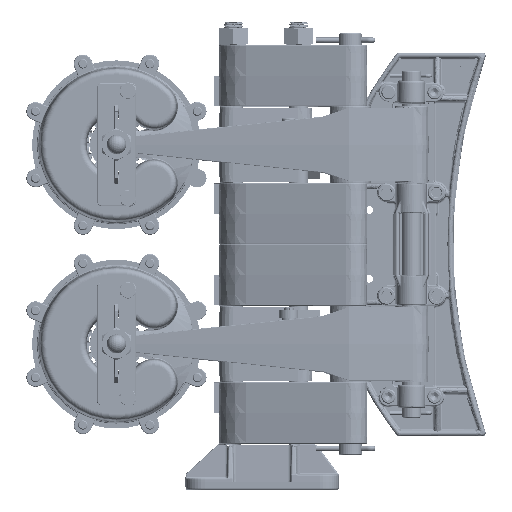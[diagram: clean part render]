
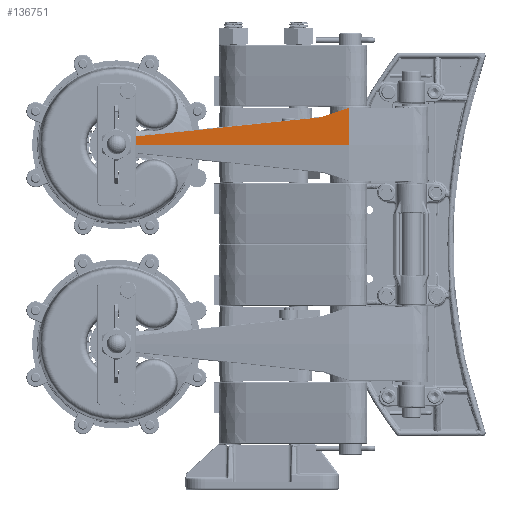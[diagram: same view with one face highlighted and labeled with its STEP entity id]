
A CAD part, top view. The second image highlights one B-rep face of the part: STEP entity #136751.
In plain terms, the highlighted planar face has unit normal (-0.091, 0.018, 0.996).
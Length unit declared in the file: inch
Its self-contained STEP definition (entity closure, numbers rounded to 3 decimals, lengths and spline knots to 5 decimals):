
#981 = VECTOR ( 'NONE', #247696, 39.37008 ) ;
#3040 = EDGE_CURVE ( 'NONE', #159922, #183151, #129863, .T. ) ;
#7959 = DIRECTION ( 'NONE',  ( 0.996, 0., 0.091 ) ) ;
#44146 = DIRECTION ( 'NONE',  ( -0.091, 0.017, 0.996 ) ) ;
#44271 = CARTESIAN_POINT ( 'NONE',  ( -0.30337, 4.13664, 3.76346 ) ) ;
#68616 = AXIS2_PLACEMENT_3D ( 'NONE', #218626, #44146, #247762 ) ;
#75100 = LINE ( 'NONE', #203198, #143348 ) ;
#93016 = VERTEX_POINT ( 'NONE', #231192 ) ;
#107151 = EDGE_CURVE ( 'NONE', #343277, #219082, #214190, .T. ) ;
#109599 = EDGE_CURVE ( 'NONE', #93016, #219082, #114776, .T. ) ;
#114776 = LINE ( 'NONE', #214898, #183190 ) ;
#121940 = CARTESIAN_POINT ( 'NONE',  ( -6.66035, 3.48035, 3.1924 ) ) ;
#123183 = CARTESIAN_POINT ( 'NONE',  ( -6.66035, 3.48036, 3.1924 ) ) ;
#123773 = CARTESIAN_POINT ( 'NONE',  ( 0.58267, 3.25, 3.8602 ) ) ;
#127630 = CARTESIAN_POINT ( 'NONE',  ( -6.66035, 3.48036, 3.1924 ) ) ;
#129863 =( BOUNDED_CURVE ( )  B_SPLINE_CURVE ( 3, ( #152524, #123183, #121940, #356251 ),
 .UNSPECIFIED., .F., .F. ) 
 B_SPLINE_CURVE_WITH_KNOTS ( ( 4, 4 ),
 ( 6.28254, 6.28321 ),
 .UNSPECIFIED. ) 
 CURVE ( )  GEOMETRIC_REPRESENTATION_ITEM ( )  RATIONAL_B_SPLINE_CURVE ( ( 1., 1., 1., 1. ) ) 
 REPRESENTATION_ITEM ( '' )  );
#136682 = VECTOR ( 'NONE', #7959, 39.37008 ) ;
#136751 = ADVANCED_FACE ( 'NONE', ( #309421 ), #275787, .T. ) ;
#143348 = VECTOR ( 'NONE', #204453, 39.37008 ) ;
#152524 = CARTESIAN_POINT ( 'NONE',  ( -6.66035, 3.48036, 3.1924 ) ) ;
#157142 = ORIENTED_EDGE ( 'NONE', *, *, #107151, .T. ) ;
#159922 = VERTEX_POINT ( 'NONE', #127630 ) ;
#163224 = VECTOR ( 'NONE', #239009, 39.37008 ) ;
#173769 = EDGE_CURVE ( 'NONE', #183151, #343277, #75100, .T. ) ;
#180452 = CARTESIAN_POINT ( 'NONE',  ( 0.22886, 4.31556, 3.8091 ) ) ;
#183151 = VERTEX_POINT ( 'NONE', #296644 ) ;
#183190 = VECTOR ( 'NONE', #244114, 39.37008 ) ;
#184575 = EDGE_LOOP ( 'NONE', ( #363657, #247520, #288802, #190291, #157142, #209423 ) ) ;
#190291 = ORIENTED_EDGE ( 'NONE', *, *, #173769, .T. ) ;
#203022 = EDGE_CURVE ( 'NONE', #238362, #159922, #233314, .T. ) ;
#203198 = CARTESIAN_POINT ( 'NONE',  ( -6.6606, 3.25336, 3.19636 ) ) ;
#204453 = DIRECTION ( 'NONE',  ( -0.001, -1., 0.017 ) ) ;
#209423 = ORIENTED_EDGE ( 'NONE', *, *, #109599, .F. ) ;
#214190 = LINE ( 'NONE', #123773, #136682 ) ;
#214898 = CARTESIAN_POINT ( 'NONE',  ( 0.62798, 3.25022, 3.86435 ) ) ;
#218626 = CARTESIAN_POINT ( 'NONE',  ( 0.58267, 3.25, 3.8602 ) ) ;
#219082 = VERTEX_POINT ( 'NONE', #340092 ) ;
#231192 = CARTESIAN_POINT ( 'NONE',  ( 0.6278, 4.44967, 3.84331 ) ) ;
#233314 = LINE ( 'NONE', #306389, #981 ) ;
#238362 = VERTEX_POINT ( 'NONE', #44271 ) ;
#239009 = DIRECTION ( 'NONE',  ( -0.945, -0.318, -0.081 ) ) ;
#244114 = DIRECTION ( 'NONE',  ( 0., -1., 0.018 ) ) ;
#247520 = ORIENTED_EDGE ( 'NONE', *, *, #203022, .T. ) ;
#247696 = DIRECTION ( 'NONE',  ( -0.991, -0.102, -0.089 ) ) ;
#247762 = DIRECTION ( 'NONE',  ( 0.996, 0., 0.091 ) ) ;
#275787 = PLANE ( 'NONE',  #68616 ) ;
#288802 = ORIENTED_EDGE ( 'NONE', *, *, #3040, .T. ) ;
#296644 = CARTESIAN_POINT ( 'NONE',  ( -6.66035, 3.48035, 3.1924 ) ) ;
#306389 = CARTESIAN_POINT ( 'NONE',  ( 0.48506, 4.21804, 3.83428 ) ) ;
#308948 = LINE ( 'NONE', #180452, #163224 ) ;
#309421 = FACE_OUTER_BOUND ( 'NONE', #184575, .T. ) ;
#321359 = EDGE_CURVE ( 'NONE', #93016, #238362, #308948, .T. ) ;
#340092 = CARTESIAN_POINT ( 'NONE',  ( 0.62798, 3.25, 3.86435 ) ) ;
#343277 = VERTEX_POINT ( 'NONE', #372124 ) ;
#356251 = CARTESIAN_POINT ( 'NONE',  ( -6.66035, 3.48035, 3.1924 ) ) ;
#363657 = ORIENTED_EDGE ( 'NONE', *, *, #321359, .T. ) ;
#372124 = CARTESIAN_POINT ( 'NONE',  ( -6.66061, 3.25, 3.19642 ) ) ;
